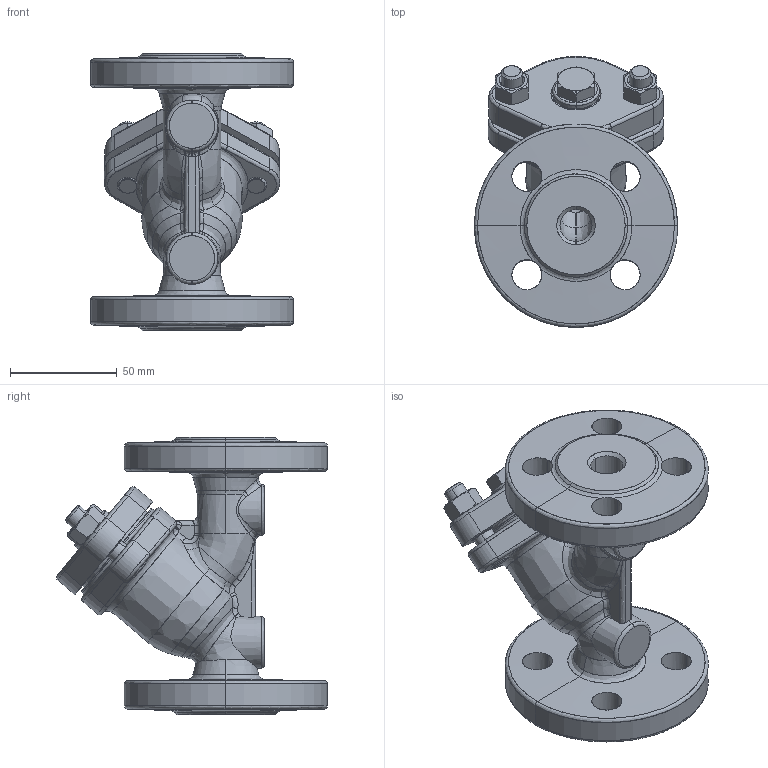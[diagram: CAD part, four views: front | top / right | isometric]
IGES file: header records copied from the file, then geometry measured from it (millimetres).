
Start section: SolidWorks IGES file using analytic representation for surfaces
Global section: file name: D:\Archiwum SolidWorks\staliwo\821\PN40\CAD\821_DN15 PN40.IGS; native system: SolidWorks 2010; preprocessor: SolidWorks 2010; author: wtarnaws; date: 100113.073432; units: millimetre
Bounding box: 95 x 126.71 x 130 mm (x, y, z)
Surface area: 83691.9 mm2 (no closed solid volume)
Topology: 0 solids, 0 shells, 410 faces, 6093 edges, 6093 vertices
Faces by surface type: bspline 210, revolution 200
